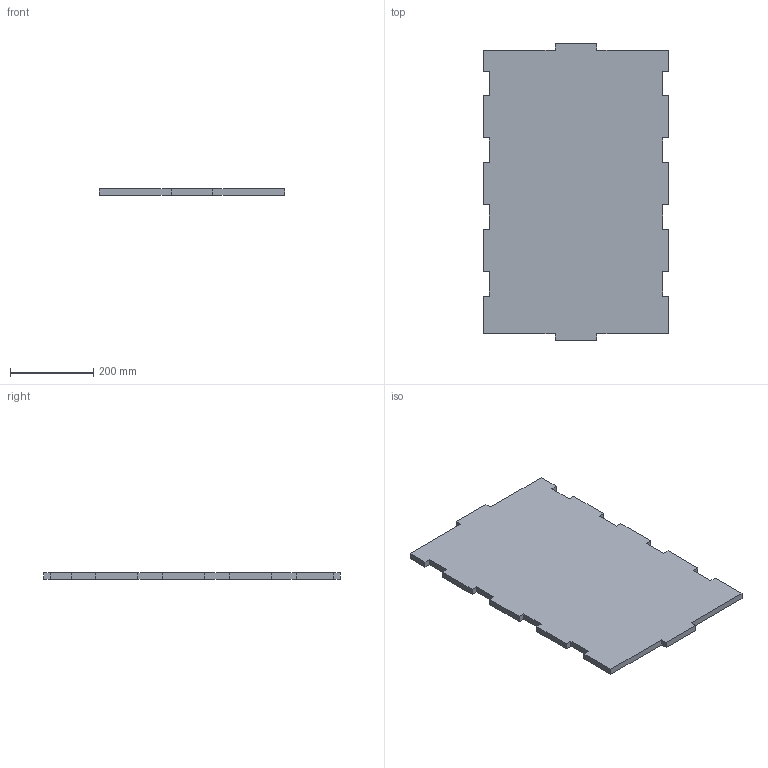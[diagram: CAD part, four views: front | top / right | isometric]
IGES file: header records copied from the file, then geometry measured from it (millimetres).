
Start section: SolidWorks IGES file using analytic representation for surfaces
Global section: file name: C:\Users\user\Documents\1_FabAcademy\week07\SolidW\iges\muebleback.IGS; native system: SolidWorks 2016; preprocessor: SolidWorks 2016; author: user; date: 170308.170630; units: millimetre
Bounding box: 445 x 710 x 15 mm (x, y, z)
Surface area: 635290 mm2 (no closed solid volume)
Topology: 0 solids, 0 shells, 46 faces, 264 edges, 264 vertices
Faces by surface type: bspline 46
